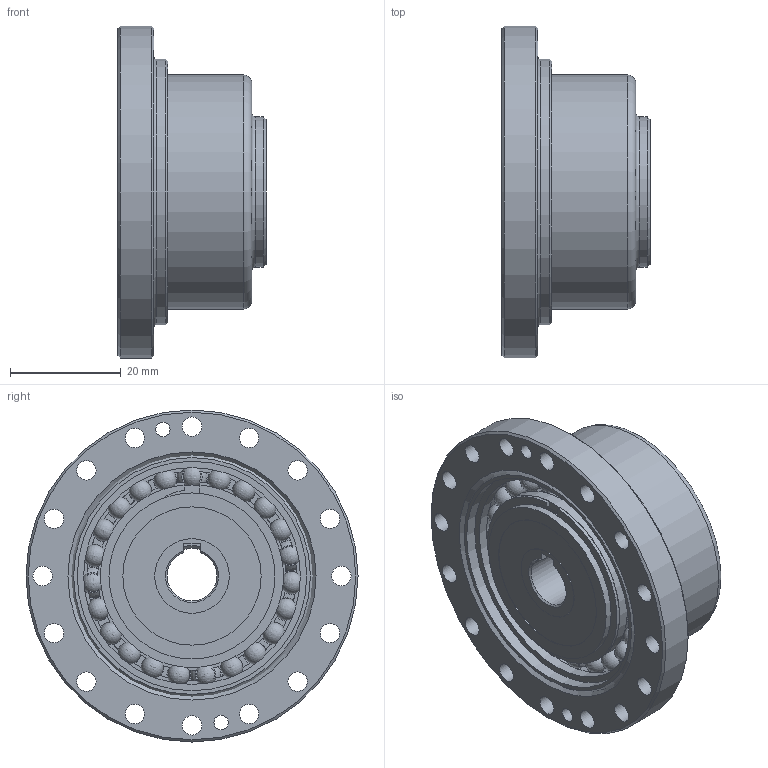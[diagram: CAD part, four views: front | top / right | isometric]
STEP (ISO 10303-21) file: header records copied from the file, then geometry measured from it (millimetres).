
FILE_DESCRIPTION(/* description */ (''),/* implementation_level */ '2;1');
FILE_NAME(/* name */ 'Getriebeset_CTG_43_FK.stp',/* time_stamp */ '2026-03-09T10:50:21+01:00',/* author */ (''),/* organization */ (''),/* preprocessor_version */ 'ST-DEVELOPER v19.4',/* originating_system */ 'SIEMENS PLM Software NX2212.9120',/* authorisation */ '');
FILE_SCHEMA (('AUTOMOTIVE_DESIGN { 1 0 10303 214 3 1 1 1 }'));
Length unit declared in the file: millimetre
Products named in the file (1): Getriebeset_CTG_43_FK
Bounding box: 26.75 x 60 x 60 mm (x, y, z)
Volume: 21935.1 mm3; surface area: 24926.4 mm2
Topology: 30 solids, 30 shells, 259 faces, 728 edges, 492 vertices
Faces by surface type: cylinder 89, plane 77, torus 44, sphere 35, cone 12, bspline 2
Full cylindrical faces by diameter (mm): 2.6 x4, 3.5 x16, 5.5 x6, 10 x1, 13.5 x1, 25 x1, 27.2 x1, 28.88 x1, 30 x3, 32.9 x3, 37 x1, 39.2 x2, 41.5 x2, 42.3 x1, 43 x1, 43.8 x1, 48 x1, 60 x1
Entity records: 9952 total; most frequent: CARTESIAN_POINT 3891, DIRECTION 1137, ORIENTED_EDGE 1112, EDGE_CURVE 556, AXIS2_PLACEMENT_3D 521, VERTEX_POINT 430, EDGE_LOOP 373, CIRCLE 263
